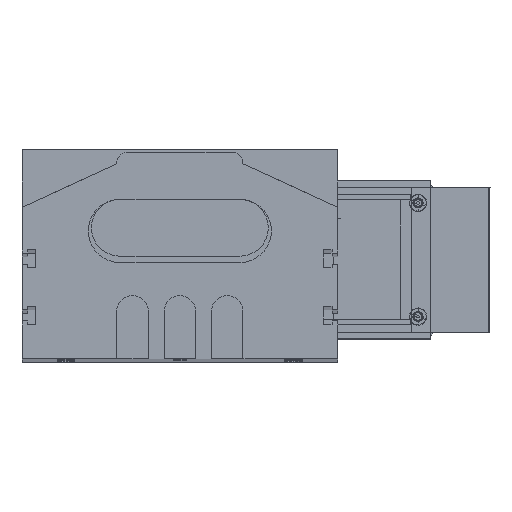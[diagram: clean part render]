
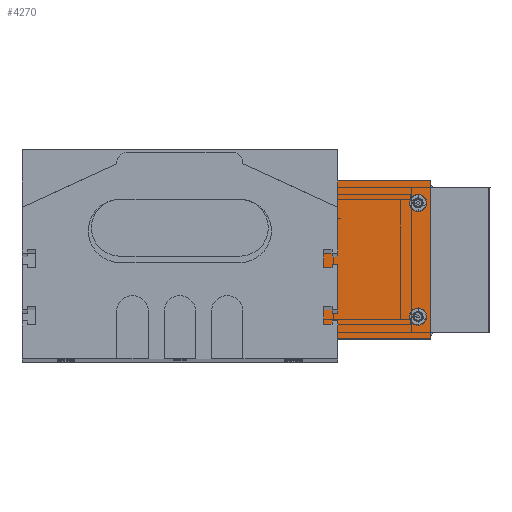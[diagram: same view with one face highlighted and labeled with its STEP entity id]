
A CAD part, top view. The second image highlights one B-rep face of the part: STEP entity #4270.
In plain terms, the highlighted planar face has unit normal (0, 0, 1) as drawn and (0, -1, 0) by its records, which use the part's own axes.
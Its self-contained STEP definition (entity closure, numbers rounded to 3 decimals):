
#4128 = VERTEX_POINT ( 'NONE', #15968 ) ;
#4188 = VERTEX_POINT ( 'NONE', #16091 ) ;
#4191 = VERTEX_POINT ( 'NONE', #16087 ) ;
#4199 = EDGE_CURVE ( 'NONE', #4191, #4188, #16092, .T. ) ;
#4211 = EDGE_CURVE ( 'NONE', #4188, #4191, #16159, .T. ) ;
#4214 = EDGE_CURVE ( 'NONE', #4240, #4239, #16158, .T. ) ;
#4233 = EDGE_CURVE ( 'NONE', #29611, #4247, #16137, .T. ) ;
#4239 = VERTEX_POINT ( 'NONE', #16231 ) ;
#4240 = VERTEX_POINT ( 'NONE', #16225 ) ;
#4247 = VERTEX_POINT ( 'NONE', #16192 ) ;
#4249 = EDGE_CURVE ( 'NONE', #4128, #26491, #16291, .T. ) ;
#4256 = ORIENTED_EDGE ( 'NONE', *, *, #4324, .F. ) ;
#4257 = ORIENTED_EDGE ( 'NONE', *, *, #4211, .F. ) ;
#4259 = EDGE_LOOP ( 'NONE', ( #4256, #4368 ) ) ;
#4262 = VERTEX_POINT ( 'NONE', #16194 ) ;
#4263 = VERTEX_POINT ( 'NONE', #16285 ) ;
#4268 = ORIENTED_EDGE ( 'NONE', *, *, #4233, .F. ) ;
#4270 = ADVANCED_FACE ( 'NONE', ( #16174, #16271, #16269, #16170, #16281 ), #16272, .F. ) ;
#4274 = VERTEX_POINT ( 'NONE', #16270 ) ;
#4277 = EDGE_CURVE ( 'NONE', #4262, #4291, #16292, .T. ) ;
#4278 = EDGE_CURVE ( 'NONE', #4291, #4263, #16245, .T. ) ;
#4279 = ORIENTED_EDGE ( 'NONE', *, *, #4277, .F. ) ;
#4280 = EDGE_CURVE ( 'NONE', #4274, #4262, #16236, .T. ) ;
#4287 = EDGE_CURVE ( 'NONE', #4247, #29611, #16342, .T. ) ;
#4291 = VERTEX_POINT ( 'NONE', #16337 ) ;
#4292 = ORIENTED_EDGE ( 'NONE', *, *, #4388, .F. ) ;
#4297 = EDGE_CURVE ( 'NONE', #26491, #4128, #16316, .T. ) ;
#4300 = ORIENTED_EDGE ( 'NONE', *, *, #4280, .F. ) ;
#4302 = ORIENTED_EDGE ( 'NONE', *, *, #4278, .F. ) ;
#4307 = EDGE_LOOP ( 'NONE', ( #4302, #4279, #4300, #4292 ) ) ;
#4324 = EDGE_CURVE ( 'NONE', #4239, #4240, #16295, .T. ) ;
#4367 = EDGE_LOOP ( 'NONE', ( #4257, #4377 ) ) ;
#4368 = ORIENTED_EDGE ( 'NONE', *, *, #4214, .F. ) ;
#4377 = ORIENTED_EDGE ( 'NONE', *, *, #4199, .F. ) ;
#4388 = EDGE_CURVE ( 'NONE', #4263, #4274, #16521, .T. ) ;
#4390 = ORIENTED_EDGE ( 'NONE', *, *, #4287, .F. ) ;
#4395 = EDGE_LOOP ( 'NONE', ( #4398, #4404 ) ) ;
#4398 = ORIENTED_EDGE ( 'NONE', *, *, #4297, .F. ) ;
#4403 = EDGE_LOOP ( 'NONE', ( #4390, #4268 ) ) ;
#4404 = ORIENTED_EDGE ( 'NONE', *, *, #4249, .F. ) ;
#5434 = CARTESIAN_POINT ( 'NONE',  ( -39., -2., -7.25 ) ) ;
#14695 = DIRECTION ( 'NONE',  ( 0., 0., 1. ) ) ;
#15968 = CARTESIAN_POINT ( 'NONE',  ( -39., -2., 12.75 ) ) ;
#16055 = DIRECTION ( 'NONE',  ( 0., 0., -1. ) ) ;
#16057 = DIRECTION ( 'NONE',  ( 0., -1., 0. ) ) ;
#16087 = CARTESIAN_POINT ( 'NONE',  ( 20.2, -2., 20.75 ) ) ;
#16088 = AXIS2_PLACEMENT_3D ( 'NONE', #16098, #16057, #16055 ) ;
#16091 = CARTESIAN_POINT ( 'NONE',  ( 20.2, -2., 15.25 ) ) ;
#16092 = CIRCLE ( 'NONE', #16088, 2.75 ) ;
#16098 = CARTESIAN_POINT ( 'NONE',  ( 20.2, -2., 18. ) ) ;
#16130 = DIRECTION ( 'NONE',  ( 0., 0., -1. ) ) ;
#16131 = DIRECTION ( 'NONE',  ( 0., -1., 0. ) ) ;
#16133 = CARTESIAN_POINT ( 'NONE',  ( 20.2, -2., -18. ) ) ;
#16137 = CIRCLE ( 'NONE', #16216, 2.75 ) ;
#16141 = DIRECTION ( 'NONE',  ( 0., 0., -1. ) ) ;
#16143 = DIRECTION ( 'NONE',  ( 0., -1., 0. ) ) ;
#16145 = CARTESIAN_POINT ( 'NONE',  ( 20.2, -2., 18. ) ) ;
#16149 = AXIS2_PLACEMENT_3D ( 'NONE', #16133, #16131, #16130 ) ;
#16158 = CIRCLE ( 'NONE', #16149, 2.75 ) ;
#16159 = CIRCLE ( 'NONE', #16169, 2.75 ) ;
#16169 = AXIS2_PLACEMENT_3D ( 'NONE', #16145, #16143, #16141 ) ;
#16170 = FACE_BOUND ( 'NONE', #4259, .T. ) ;
#16171 = CARTESIAN_POINT ( 'NONE',  ( -39., -2., 10. ) ) ;
#16174 = FACE_OUTER_BOUND ( 'NONE', #4307, .T. ) ;
#16192 = CARTESIAN_POINT ( 'NONE',  ( -39., -2., -12.75 ) ) ;
#16194 = CARTESIAN_POINT ( 'NONE',  ( -42., -2., 25. ) ) ;
#16212 = DIRECTION ( 'NONE',  ( 0., 0., -1. ) ) ;
#16214 = DIRECTION ( 'NONE',  ( 0., -1., 0. ) ) ;
#16215 = CARTESIAN_POINT ( 'NONE',  ( -39., -2., -10. ) ) ;
#16216 = AXIS2_PLACEMENT_3D ( 'NONE', #16215, #16214, #16212 ) ;
#16225 = CARTESIAN_POINT ( 'NONE',  ( 20.2, -2., -15.25 ) ) ;
#16231 = CARTESIAN_POINT ( 'NONE',  ( 20.2, -2., -20.75 ) ) ;
#16232 = VECTOR ( 'NONE', #14695, 1000. ) ;
#16235 = CARTESIAN_POINT ( 'NONE',  ( -42., -2., -25. ) ) ;
#16236 = LINE ( 'NONE', #16235, #16232 ) ;
#16239 = DIRECTION ( 'NONE',  ( 0., 0., -1. ) ) ;
#16241 = VECTOR ( 'NONE', #16239, 1000. ) ;
#16243 = CARTESIAN_POINT ( 'NONE',  ( 24., -2., 25. ) ) ;
#16245 = LINE ( 'NONE', #16243, #16241 ) ;
#16252 = DIRECTION ( 'NONE',  ( 1., 0., 0. ) ) ;
#16254 = VECTOR ( 'NONE', #16252, 1000. ) ;
#16255 = CARTESIAN_POINT ( 'NONE',  ( -37., -2., 25. ) ) ;
#16259 = DIRECTION ( 'NONE',  ( 0., 0., 1. ) ) ;
#16269 = FACE_BOUND ( 'NONE', #4403, .T. ) ;
#16270 = CARTESIAN_POINT ( 'NONE',  ( -42., -2., -25. ) ) ;
#16271 = FACE_BOUND ( 'NONE', #4395, .T. ) ;
#16272 = PLANE ( 'NONE',  #16283 ) ;
#16276 = DIRECTION ( 'NONE',  ( 0., 1., 0. ) ) ;
#16277 = CARTESIAN_POINT ( 'NONE',  ( 37., -2., -25. ) ) ;
#16281 = FACE_BOUND ( 'NONE', #4367, .T. ) ;
#16283 = AXIS2_PLACEMENT_3D ( 'NONE', #16277, #16276, #16259 ) ;
#16285 = CARTESIAN_POINT ( 'NONE',  ( 24., -2., -25. ) ) ;
#16288 = DIRECTION ( 'NONE',  ( 0., 0., -1. ) ) ;
#16289 = DIRECTION ( 'NONE',  ( 0., -1., 0. ) ) ;
#16290 = AXIS2_PLACEMENT_3D ( 'NONE', #16171, #16289, #16288 ) ;
#16291 = CIRCLE ( 'NONE', #16290, 2.75 ) ;
#16292 = LINE ( 'NONE', #16255, #16254 ) ;
#16295 = CIRCLE ( 'NONE', #16375, 2.75 ) ;
#16309 = DIRECTION ( 'NONE',  ( 0., 0., -1. ) ) ;
#16311 = DIRECTION ( 'NONE',  ( 0., -1., 0. ) ) ;
#16316 = CIRCLE ( 'NONE', #16329, 2.75 ) ;
#16319 = DIRECTION ( 'NONE',  ( 0., 0., -1. ) ) ;
#16320 = DIRECTION ( 'NONE',  ( 0., -1., 0. ) ) ;
#16322 = CARTESIAN_POINT ( 'NONE',  ( -39., -2., -10. ) ) ;
#16324 = AXIS2_PLACEMENT_3D ( 'NONE', #16322, #16320, #16319 ) ;
#16329 = AXIS2_PLACEMENT_3D ( 'NONE', #16340, #16311, #16309 ) ;
#16337 = CARTESIAN_POINT ( 'NONE',  ( 24., -2., 25. ) ) ;
#16340 = CARTESIAN_POINT ( 'NONE',  ( -39., -2., 10. ) ) ;
#16342 = CIRCLE ( 'NONE', #16324, 2.75 ) ;
#16373 = DIRECTION ( 'NONE',  ( 0., 0., -1. ) ) ;
#16375 = AXIS2_PLACEMENT_3D ( 'NONE', #16383, #16394, #16373 ) ;
#16383 = CARTESIAN_POINT ( 'NONE',  ( 20.2, -2., -18. ) ) ;
#16394 = DIRECTION ( 'NONE',  ( 0., -1., 0. ) ) ;
#16509 = VECTOR ( 'NONE', #16516, 1000. ) ;
#16516 = DIRECTION ( 'NONE',  ( -1., 0., 0. ) ) ;
#16517 = CARTESIAN_POINT ( 'NONE',  ( 37., -2., -25. ) ) ;
#16521 = LINE ( 'NONE', #16517, #16509 ) ;
#26491 = VERTEX_POINT ( 'NONE', #33655 ) ;
#29611 = VERTEX_POINT ( 'NONE', #5434 ) ;
#33655 = CARTESIAN_POINT ( 'NONE',  ( -39., -2., 7.25 ) ) ;
